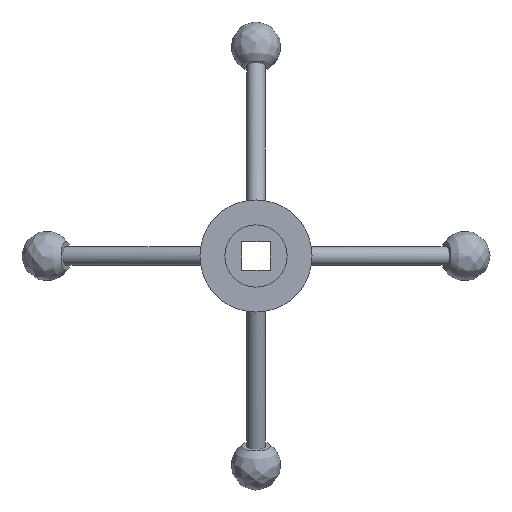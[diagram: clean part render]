
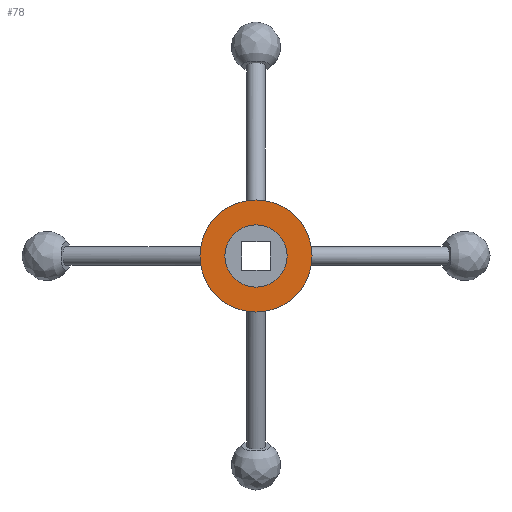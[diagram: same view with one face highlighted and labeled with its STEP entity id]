
A CAD part, front view. The second image highlights one B-rep face of the part: STEP entity #78.
In plain terms, the highlighted planar face has unit normal (0, -1, 0).
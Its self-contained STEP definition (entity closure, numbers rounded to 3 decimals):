
#78 = ADVANCED_FACE( '', ( #107, #108 ), #109, .F. );
#107 = FACE_BOUND( '', #173, .T. );
#108 = FACE_OUTER_BOUND( '', #174, .T. );
#109 = PLANE( '', #175 );
#173 = EDGE_LOOP( '', ( #384 ) );
#174 = EDGE_LOOP( '', ( #385 ) );
#175 = AXIS2_PLACEMENT_3D( '', #386, #387, #388 );
#384 = ORIENTED_EDGE( '', *, *, #489, .F. );
#385 = ORIENTED_EDGE( '', *, *, #490, .T. );
#386 = CARTESIAN_POINT( '', ( 36., 14., 0. ) );
#387 = DIRECTION( '', ( 0., 1., 0. ) );
#388 = DIRECTION( '', ( 0., 0., 1. ) );
#489 = EDGE_CURVE( '', #529, #529, #530, .T. );
#490 = EDGE_CURVE( '', #531, #531, #532, .T. );
#529 = VERTEX_POINT( '', #669 );
#530 = CIRCLE( '', #670, 20. );
#531 = VERTEX_POINT( '', #671 );
#532 = CIRCLE( '', #672, 36. );
#669 = CARTESIAN_POINT( '', ( 0., 14., -20. ) );
#670 = AXIS2_PLACEMENT_3D( '', #977, #978, #979 );
#671 = CARTESIAN_POINT( '', ( 0., 14., -36. ) );
#672 = AXIS2_PLACEMENT_3D( '', #980, #981, #982 );
#977 = CARTESIAN_POINT( '', ( 0., 14., 0. ) );
#978 = DIRECTION( '', ( 0., -1., 0. ) );
#979 = DIRECTION( '', ( 0., 0., -1. ) );
#980 = CARTESIAN_POINT( '', ( 0., 14., 0. ) );
#981 = DIRECTION( '', ( 0., -1., 0. ) );
#982 = DIRECTION( '', ( 0., 0., -1. ) );
